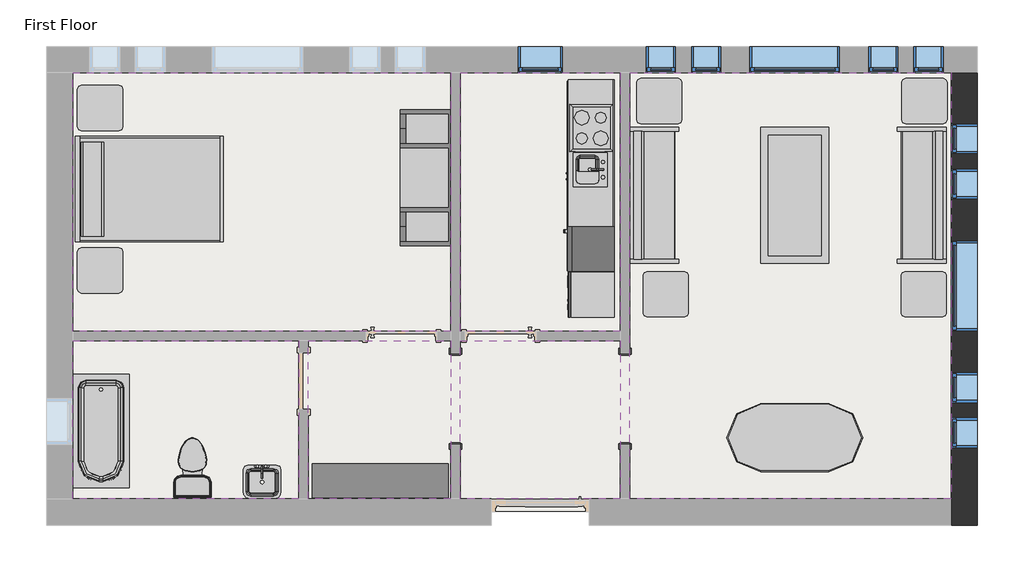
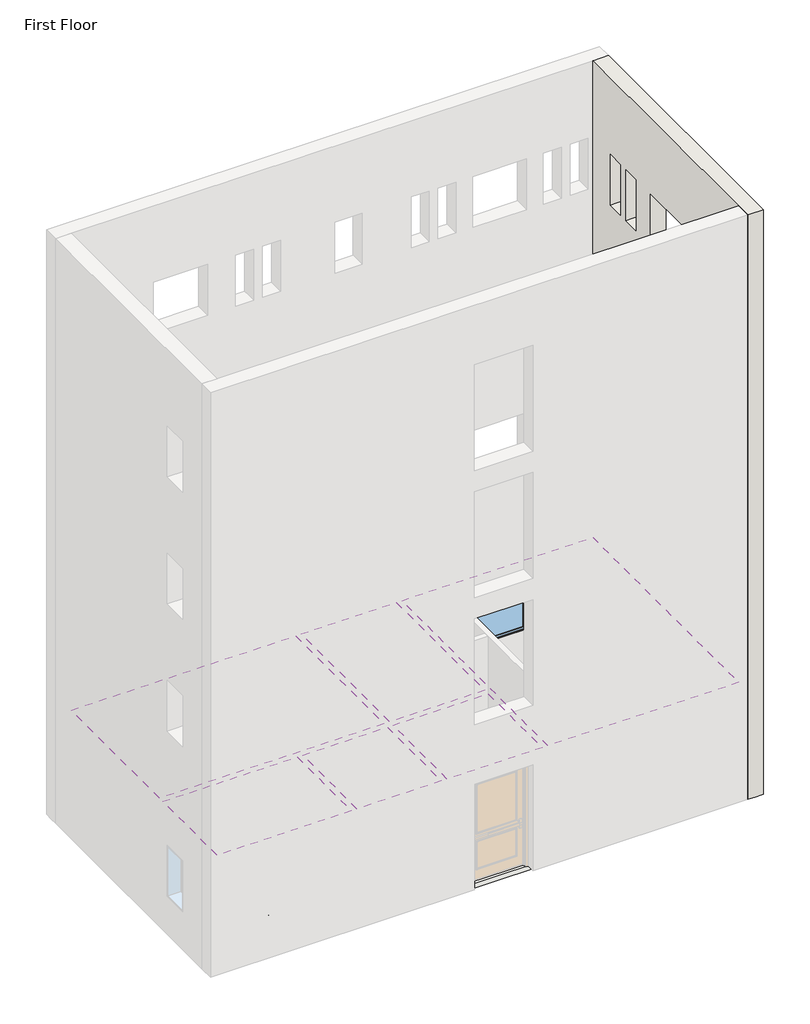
# One storey, part 2 of 2: 14 furniture elements, 11 windows, 6 coverings, 6 proxies, 4 flow terminals, 1 slab, 1 wall.
"""IFC4 building model written with IfcOpenShell, lengths in millimetres."""

from ifc_helpers import new_model, si_unit, frame, origin, place, context, project, spatial, polyline, outline, extrude, faceted_brep, transform, mapped, element, save
from components import proxy_a6faaae8, proxy_45b28599, proxy_2d72b8be, proxy_f44482cc, proxy_d58c73d0, proxy_c523a7b7, flow_terminal_871c2e40, flow_terminal_62a433f7, toilet_domestic_3d_toilet_domestic_3d_f7549cf7, toilet_domestic_3d_toilet_domestic_3d_183bbd19, tub_rectangular_3d_tub_rectangular_3d_c56944d8, furniture_096e7f55, furniture_b11095bc, furniture_7c473f12, furniture_cf0b6580, furniture_a4ffab56, furniture_4aa42607, furniture_cd93a443, furniture_2c34a4f9, furniture_3a588284, furniture_1befe2a2, window_da97879f, window_d61ef850, window_60baf983, window_6eb97611

model = new_model("IFC4")

# Units and contexts
model_context = context("Model", 3, world=origin())
ifc_project = project(units=[si_unit("LENGTHUNIT", "METRE", prefix="MILLI")], contexts=[model_context])

# Site, building, storey
site = spatial("IfcSite", under=ifc_project)
building = spatial("IfcBuilding", under=site)
storey = spatial("IfcBuildingStorey", under=building, Name="First Floor", Elevation=-914.4)

# Proxies
placement = place(None, origin())
proxy_shape = proxy_a6faaae8(model_context)
element("IfcBuildingElementProxy", 1, Name="Cook Top-4 Unit2 : 22\" x 20\"", ObjectType="Cook Top-4 Unit2 : 22\" x 20\"", at=placement, inside=storey, context=model_context, shape_type="MappedRepresentation", body=[
    mapped(proxy_shape, transform((-9031.7273953, 6866.0370415, -912.7), x_axis=(0.0, 1.0, 0.0), y_axis=(-1.0, 0.0, 0.0), z_axis=(0.0, 0.0, 1.0))),
])
proxy_2_shape = proxy_45b28599(model_context)
element("IfcBuildingElementProxy", 2, Name="Dishwasher : 24\" x 24\" x 34\"", ObjectType="Dishwasher : 24\" x 24\" x 34\"", at=placement, inside=storey, context=model_context, shape_type="MappedRepresentation", body=[
    mapped(proxy_2_shape, transform((-9291.8269601, 5000.45451, -914.4), x_axis=(0.0, -1.0, 0.0), y_axis=(1.0, 0.0, 0.0), z_axis=(0.0, 0.0, 1.0))),
])
proxy_3_shape = proxy_2d72b8be(model_context)
element("IfcBuildingElementProxy", 3, Name="Kitchenette - Medium : 8'6\"", ObjectType="Kitchenette - Medium : 8'6\"", at=placement, inside=storey, context=model_context, shape_type="MappedRepresentation", body=[
    mapped(proxy_3_shape, transform((-8720.5773953, 6237.0747464, -914.4), x_axis=(0.0, -1.0, 0.0), y_axis=(1.0, 0.0, 0.0), z_axis=(0.0, 0.0, 1.0))),
])
proxy_4_shape = proxy_f44482cc(model_context)
element("IfcBuildingElementProxy", 4, Name="Passage Opening-Cased : 48\" x 84\"", ObjectType="Passage Opening-Cased : 48\" x 84\"", at=placement, inside=storey, context=model_context, shape_type="MappedRepresentation", body=[
    mapped(proxy_4_shape, transform((-8577.1844712, 3224.0452741, -914.4), x_axis=(0.0, 1.0, 0.0), y_axis=(-1.0, 0.0, 0.0), z_axis=(0.0, 0.0, 1.0))),
])
proxy_5_shape = proxy_d58c73d0(model_context)
element("IfcBuildingElementProxy", 5, Name="Passage Opening-Cased : 48\" x 84\"", ObjectType="Passage Opening-Cased : 48\" x 84\"", at=placement, inside=storey, context=model_context, shape_type="MappedRepresentation", body=[
    mapped(proxy_5_shape, transform((-10863.1844712, 3224.0452741, -914.4), x_axis=(0.0, 1.0, 0.0), y_axis=(-1.0, 0.0, 0.0), z_axis=(0.0, 0.0, 1.0))),
])
proxy_6_shape = proxy_c523a7b7(model_context)
element("IfcBuildingElementProxy", 6, Name="Refrigerator : 24\" x 25\" LH", ObjectType="Refrigerator : 24\" x 25\" LH", at=placement, inside=storey, context=model_context, shape_type="MappedRepresentation", body=[
    mapped(proxy_6_shape, transform((-9020.2263668, 5234.0870415, -914.4), x_axis=(0.0, -1.0, 0.0), y_axis=(1.0, 0.0, 0.0), z_axis=(0.0, 0.0, 1.0))),
])

# Coverings
element("IfcCovering", 7, ObjectType="GWB on Mtl. Stud", at=placement, inside=storey, context=model_context, shape_type="SweptSolid", body=[
    extrude(outline(polyline([(-16020.9719712, 7611.6441174), (-10926.6844712, 7611.6441174), (-10926.6844712, 4128.6691174), (-16020.9719712, 4128.6691174), (-16020.9719712, 7611.6441174)])), frame((0.0, 0.0, 1676.4), z_axis=(0.0, 0.0, 1.0), x_axis=(1.0, 0.0, 0.0)), (0.0, 0.0, 1.0), 107.95),
])
element("IfcCovering", 8, ObjectType="GWB on Mtl. Stud", at=placement, inside=storey, context=model_context, shape_type="SweptSolid", body=[
    extrude(outline(polyline([(-10799.6844712, 4128.6691174), (-10799.6844712, 7611.6441174), (-8640.6844712, 7611.6441174), (-8640.6844712, 4128.6691174), (-10799.6844712, 4128.6691174)])), frame((0.0, 0.0, 1676.4), z_axis=(0.0, 0.0, 1.0), x_axis=(1.0, 0.0, 0.0)), (0.0, 0.0, 1.0), 107.95),
])
element("IfcCovering", 9, ObjectType="GWB on Mtl. Stud", at=placement, inside=storey, context=model_context, shape_type="SweptSolid", body=[
    extrude(outline(polyline([(-8513.6844712, 1868.0691174), (-8513.6844712, 7611.6441174), (-4181.3969712, 7611.6441174), (-4181.3969712, 1868.0691174), (-8513.6844712, 1868.0691174)])), frame((0.0, 0.0, 1676.4), z_axis=(0.0, 0.0, 1.0), x_axis=(1.0, 0.0, 0.0)), (0.0, 0.0, 1.0), 107.95),
])
element("IfcCovering", 10, ObjectType="GWB on Mtl. Stud", at=placement, inside=storey, context=model_context, shape_type="SweptSolid", body=[
    extrude(outline(polyline([(-8640.6844712, 1868.0691174), (-10799.6844712, 1868.0691174), (-10799.6844712, 4001.6691174), (-8640.6844712, 4001.6691174), (-8640.6844712, 1868.0691174)])), frame((0.0, 0.0, 1676.4), z_axis=(0.0, 0.0, 1.0), x_axis=(1.0, 0.0, 0.0)), (0.0, 0.0, 1.0), 107.95),
])
element("IfcCovering", 11, ObjectType="GWB on Mtl. Stud", at=placement, inside=storey, context=model_context, shape_type="SweptSolid", body=[
    extrude(outline(polyline([(-10926.6844712, 1868.0691174), (-12845.9719712, 1868.0691174), (-12845.9719712, 4001.6691174), (-10926.6844712, 4001.6691174), (-10926.6844712, 1868.0691174)])), frame((0.0, 0.0, 1676.4), z_axis=(0.0, 0.0, 1.0), x_axis=(1.0, 0.0, 0.0)), (0.0, 0.0, 1.0), 107.95),
])
element("IfcCovering", 12, ObjectType="GWB on Mtl. Stud", at=placement, inside=storey, context=model_context, shape_type="SweptSolid", body=[
    extrude(outline(polyline([(-12972.9719712, 4001.6691174), (-12972.9719712, 1868.0691174), (-16020.9719712, 1868.0691174), (-16020.9719712, 4001.6691174), (-12972.9719712, 4001.6691174)])), frame((0.0, 0.0, 1676.4), z_axis=(0.0, 0.0, 1.0), x_axis=(1.0, 0.0, 0.0)), (0.0, 0.0, 1.0), 107.95),
])

# Flow terminals
flow_terminal_shape = flow_terminal_871c2e40(model_context)
element("IfcFlowTerminal", 13, ObjectType="Sink Kitchen-Island : 18\" x 18\"", at=placement, inside=storey, context=model_context, shape_type="MappedRepresentation", body=[
    mapped(flow_terminal_shape, transform((-9048.7582992, 6321.1277059, -927.1), x_axis=(0.0, -1.0, 0.0), y_axis=(1.0, 0.0, 0.0), z_axis=(0.0, 0.0, 1.0))),
])
flow_terminal_2_shape = flow_terminal_62a433f7(model_context)
element("IfcFlowTerminal", 14, ObjectType="Sink Vanity-Square : 20\" x 18\"", at=placement, inside=storey, context=model_context, shape_type="MappedRepresentation", body=[
    mapped(flow_terminal_2_shape, transform((-13483.9612118, 2145.1237163, -914.4), x_axis=(1.0, 0.0, 0.0), y_axis=(0.0, 1.0, 0.0), z_axis=(0.0, 0.0, 1.0))),
])
toilet_domestic_3d_toilet_domestic_3d_shape = toilet_domestic_3d_toilet_domestic_3d_f7549cf7(model_context)
toilet_domestic_3d_toilet_domestic_3d_2_shape = toilet_domestic_3d_toilet_domestic_3d_183bbd19(model_context)
element("IfcFlowTerminal", 15, ObjectType="Toilet-Domestic-3D : Toilet-Domestic-3D", at=placement, inside=storey, context=model_context, shape_type="MappedRepresentation", body=[
    mapped(toilet_domestic_3d_toilet_domestic_3d_shape, transform((-14408.0719712, 2388.7691174, -914.4), x_axis=(-1.0, 0.0, 0.0), y_axis=(0.0, -1.0, 0.0), z_axis=(0.0, 0.0, 1.0))),
    mapped(toilet_domestic_3d_toilet_domestic_3d_2_shape, transform((-14408.0719712, 2388.7691174, -914.4), x_axis=(-1.0, 0.0, 0.0), y_axis=(0.0, -1.0, 0.0), z_axis=(0.0, 0.0, 1.0))),
])
tub_rectangular_3d_tub_rectangular_3d_shape = tub_rectangular_3d_tub_rectangular_3d_c56944d8(model_context)
element("IfcFlowTerminal", 16, ObjectType="Tub-Rectangular-3D : Tub-Rectangular-3D", at=placement, inside=storey, context=model_context, shape_type="MappedRepresentation", body=[
    mapped(tub_rectangular_3d_tub_rectangular_3d_shape, transform((-16197.1844712, 2435.4536487, -914.4), x_axis=(0.0, -1.0, 0.0), y_axis=(1.0, 0.0, 0.0), z_axis=(0.0, 0.0, 1.0))),
])

# Furniture
furniture_shape = furniture_096e7f55(model_context)
element("IfcFurniture", 17, ObjectType="Bed-Shaker : Double 56\" x 78\"", at=placement, inside=storey, context=model_context, shape_type="MappedRepresentation", body=[
    mapped(furniture_shape, transform((-15975.8112951, 6061.1004868, -914.4), x_axis=(0.0, 1.0, 0.0), y_axis=(-1.0, 0.0, 0.0), z_axis=(0.0, 0.0, 1.0))),
])
furniture_2_shape = furniture_b11095bc(model_context)
element("IfcFurniture", 18, ObjectType="Counter Top w Sink Hole : 24\" Depth", at=placement, inside=storey, context=model_context, shape_type="MappedRepresentation", body=[
    mapped(furniture_2_shape, transform((-8720.5773953, 6313.2747464, -927.1), x_axis=(0.0, -1.0, 0.0), y_axis=(1.0, 0.0, 0.0), z_axis=(0.0, 0.0, 1.0))),
])
furniture_3_shape = furniture_7c473f12(model_context)
element("IfcFurniture", 19, ObjectType="Dresser : 72\" x 60\" x 18\"", at=placement, inside=storey, context=model_context, shape_type="MappedRepresentation", body=[
    mapped(furniture_3_shape, transform((-11608.4037114, 2478.8820715, -914.4), x_axis=(1.0, 0.0, 0.0), y_axis=(0.0, 1.0, 0.0), z_axis=(0.0, 0.0, 1.0))),
])
furniture_4_shape = furniture_cf0b6580(model_context)
element("IfcFurniture", 20, ObjectType="Entertainment Center : 72\" x 72\" x 24\"", at=placement, inside=storey, context=model_context, shape_type="MappedRepresentation", body=[
    mapped(furniture_4_shape, transform((-10825.0844712, 6196.8069525, -914.4), x_axis=(0.0, -1.0, 0.0), y_axis=(1.0, 0.0, 0.0), z_axis=(0.0, 0.0, 1.0))),
])
furniture_5_shape = furniture_a4ffab56(model_context)
element("IfcFurniture", 21, ObjectType="Sofa : 72\"", at=placement, inside=storey, context=model_context, shape_type="MappedRepresentation", body=[
    mapped(furniture_5_shape, transform((-8037.3303728, 5888.6861256, -914.4), x_axis=(0.0, 1.0, 0.0), y_axis=(-1.0, 0.0, 0.0), z_axis=(0.0, 0.0, 1.0))),
])
furniture_6_shape = furniture_4aa42607(model_context)
element("IfcFurniture", 22, ObjectType="Sofa : 72\"", at=placement, inside=storey, context=model_context, shape_type="MappedRepresentation", body=[
    mapped(furniture_6_shape, transform((-4722.8385696, 5888.6861256, -914.4), x_axis=(0.0, 1.0, 0.0), y_axis=(-1.0, 0.0, 0.0), z_axis=(0.0, 0.0, 1.0))),
])
furniture_7_shape = furniture_cd93a443(model_context)
element("IfcFurniture", 23, ObjectType="Table-Coffee : 36\" x 72\" x 18\"", at=placement, inside=storey, context=model_context, shape_type="MappedRepresentation", body=[
    mapped(furniture_7_shape, transform((-6386.395549, 5977.3223841, -914.4), x_axis=(0.0, -1.0, 0.0), y_axis=(1.0, 0.0, 0.0), z_axis=(0.0, 0.0, 1.0))),
])
furniture_8_shape = furniture_2c34a4f9(model_context)
element("IfcFurniture", 24, ObjectType="Table-Dining Oval : 36\" x 72\"", at=placement, inside=storey, context=model_context, shape_type="MappedRepresentation", body=[
    mapped(furniture_8_shape, transform((-5889.3647991, 3051.6674781, -914.4), x_axis=(1.0, 0.0, 0.0), y_axis=(0.0, 1.0, 0.0), z_axis=(0.0, 0.0, 1.0))),
])
furniture_9_shape = furniture_3a588284(model_context)
element("IfcFurniture", 25, ObjectType="Table-End : 24\" x 24\"", at=placement, inside=storey, context=model_context, shape_type="MappedRepresentation", body=[
    mapped(furniture_9_shape, transform((-8424.0054177, 7076.6566174, -914.4), x_axis=(1.0, 0.0, 0.0), y_axis=(0.0, 1.0, 0.0), z_axis=(0.0, 0.0, 1.0))),
])
element("IfcFurniture", 26, ObjectType="Table-End : 24\" x 24\"", at=placement, inside=storey, context=model_context, shape_type="MappedRepresentation", body=[
    mapped(furniture_9_shape, transform((-8338.5433691, 4473.0178252, -914.4), x_axis=(1.0, 0.0, 0.0), y_axis=(0.0, 1.0, 0.0), z_axis=(0.0, 0.0, 1.0))),
])
element("IfcFurniture", 27, ObjectType="Table-End : 24\" x 24\"", at=placement, inside=storey, context=model_context, shape_type="MappedRepresentation", body=[
    mapped(furniture_9_shape, transform((-15961.2056015, 4795.4191174, -914.4), x_axis=(1.0, 0.0, 0.0), y_axis=(0.0, 1.0, 0.0), z_axis=(0.0, 0.0, 1.0))),
])
furniture_10_shape = furniture_1befe2a2(model_context)
element("IfcFurniture", 28, ObjectType="Table-End : 24\" x 24\"", at=placement, inside=storey, context=model_context, shape_type="MappedRepresentation", body=[
    mapped(furniture_10_shape, transform((-4234.5635246, 7076.6566174, -914.4), x_axis=(-1.0, 0.0, 0.0), y_axis=(0.0, -1.0, 0.0), z_axis=(0.0, 0.0, 1.0))),
])
element("IfcFurniture", 29, ObjectType="Table-End : 24\" x 24\"", at=placement, inside=storey, context=model_context, shape_type="MappedRepresentation", body=[
    mapped(furniture_10_shape, transform((-4243.8255733, 4473.0178252, -914.4), x_axis=(-1.0, 0.0, 0.0), y_axis=(0.0, -1.0, 0.0), z_axis=(0.0, 0.0, 1.0))),
])
element("IfcFurniture", 30, ObjectType="Table-End : 24\" x 24\"", at=placement, inside=storey, context=model_context, shape_type="MappedRepresentation", body=[
    mapped(furniture_10_shape, transform((-15961.2056015, 7288.6818561, -914.4), x_axis=(1.0, 0.0, 0.0), y_axis=(0.0, 1.0, 0.0), z_axis=(0.0, 0.0, 1.0))),
])

# Slab
element("IfcSlab", 31, ObjectType="LW Concrete on Metal Deck", at=placement, inside=storey, context=model_context, shape_type="SweptSolid", body=[
    extrude(outline(polyline([(-4016.2969712, 7776.7441174), (-4016.2969712, 1702.9691174), (-16186.0719712, 1702.9691174), (-16186.0719712, 7776.7441174), (-4016.2969712, 7776.7441174)])), frame((0.0, 0.0, -1019.175), z_axis=(0.0, 0.0, 1.0), x_axis=(1.0, 0.0, 0.0)), (0.0, 0.0, 1.0), 104.775),
])

# Wall
element("IfcWall", 32, ObjectType="Exterior - Brick on Mtl. Stud", at=placement, inside=storey, context=model_context, shape_type="Brep", body=[
    faceted_brep([(-4181.3969712, 7611.6441174, -914.4), (-4181.3969712, 1868.0691174, -914.4), (-4181.3969712, 1702.9691174, -914.4), (-4181.3969712, 1515.6441174, -914.4), (-4181.3969712, 1515.6441174, 13106.4), (-4181.3969712, 1868.0691174, 13106.4), (-4181.3969712, 7611.6441174, 13106.4), (-4181.3969712, 5349.4566174, 1219.2), (-4181.3969712, 4130.2566174, 1219.2), (-4181.3969712, 4130.2566174, 0.0), (-4181.3969712, 5349.4566174, 0.0), (-4181.3969712, 6314.6566174, 1219.2), (-4181.3969712, 5908.2566174, 1219.2), (-4181.3969712, 5908.2566174, 0.0), (-4181.3969712, 6314.6566174, 0.0), (-4181.3969712, 6924.2566174, 1219.2), (-4181.3969712, 6517.8566174, 1219.2), (-4181.3969712, 6517.8566174, 0.0), (-4181.3969712, 6924.2566174, 0.0), (-4181.3969712, 3165.0566174, 1219.2), (-4181.3969712, 3165.0566174, 0.0), (-4181.3969712, 3571.4566174, 0.0), (-4181.3969712, 3571.4566174, 1219.2), (-4181.3969712, 2555.4566174, 1219.2), (-4181.3969712, 2555.4566174, 0.0), (-4181.3969712, 2961.8566174, 0.0), (-4181.3969712, 2961.8566174, 1219.2), (-4181.3969712, 3165.0566174, 11277.6), (-4181.3969712, 3165.0566174, 10058.4), (-4181.3969712, 3571.4566174, 10058.4), (-4181.3969712, 3571.4566174, 11277.6), (-4181.3969712, 2555.4566174, 11277.6), (-4181.3969712, 2555.4566174, 10058.4), (-4181.3969712, 2961.8566174, 10058.4), (-4181.3969712, 2961.8566174, 11277.6), (-4181.3969712, 6314.6566174, 11277.6), (-4181.3969712, 5908.2566174, 11277.6), (-4181.3969712, 5908.2566174, 10058.4), (-4181.3969712, 6314.6566174, 10058.4), (-4181.3969712, 6924.2566174, 11277.6), (-4181.3969712, 6517.8566174, 11277.6), (-4181.3969712, 6517.8566174, 10058.4), (-4181.3969712, 6924.2566174, 10058.4), (-4181.3969712, 5349.4566174, 11277.6), (-4181.3969712, 4130.2566174, 11277.6), (-4181.3969712, 4130.2566174, 10058.4), (-4181.3969712, 5349.4566174, 10058.4), (-4181.3969712, 3165.0566174, 5181.6), (-4181.3969712, 3165.0566174, 3962.4), (-4181.3969712, 3571.4566174, 3962.4), (-4181.3969712, 3571.4566174, 5181.6), (-4181.3969712, 2555.4566174, 5181.6), (-4181.3969712, 2555.4566174, 3962.4), (-4181.3969712, 2961.8566174, 3962.4), (-4181.3969712, 2961.8566174, 5181.6), (-4181.3969712, 6314.6566174, 5181.6), (-4181.3969712, 5908.2566174, 5181.6), (-4181.3969712, 5908.2566174, 3962.4), (-4181.3969712, 6314.6566174, 3962.4), (-4181.3969712, 6924.2566174, 5181.6), (-4181.3969712, 6517.8566174, 5181.6), (-4181.3969712, 6517.8566174, 3962.4), (-4181.3969712, 6924.2566174, 3962.4), (-4181.3969712, 5349.4566174, 5181.6), (-4181.3969712, 4130.2566174, 5181.6), (-4181.3969712, 4130.2566174, 3962.4), (-4181.3969712, 5349.4566174, 3962.4), (-4181.3969712, 3165.0566174, 8229.6), (-4181.3969712, 3165.0566174, 7010.4), (-4181.3969712, 3571.4566174, 7010.4), (-4181.3969712, 3571.4566174, 8229.6), (-4181.3969712, 2555.4566174, 8229.6), (-4181.3969712, 2555.4566174, 7010.4), (-4181.3969712, 2961.8566174, 7010.4), (-4181.3969712, 2961.8566174, 8229.6), (-4181.3969712, 6314.6566174, 8229.6), (-4181.3969712, 5908.2566174, 8229.6), (-4181.3969712, 5908.2566174, 7010.4), (-4181.3969712, 6314.6566174, 7010.4), (-4181.3969712, 6924.2566174, 8229.6), (-4181.3969712, 6517.8566174, 8229.6), (-4181.3969712, 6517.8566174, 7010.4), (-4181.3969712, 6924.2566174, 7010.4), (-4181.3969712, 5349.4566174, 8229.6), (-4181.3969712, 4130.2566174, 8229.6), (-4181.3969712, 4130.2566174, 7010.4), (-4181.3969712, 5349.4566174, 7010.4), (-3828.9719712, 7611.6441174, -914.4), (-3828.9719712, 7611.6441174, 13106.4), (-3828.9719712, 1515.6441174, 13106.4), (-3828.9719712, 1515.6441174, -914.4), (-3828.9719712, 1702.9691174, -914.4), (-3828.9719712, 5349.4566174, 1219.2), (-3828.9719712, 5349.4566174, 0.0), (-3828.9719712, 4130.2566174, 0.0), (-3828.9719712, 4130.2566174, 1219.2), (-3828.9719712, 6314.6566174, 1219.2), (-3828.9719712, 6314.6566174, 0.0), (-3828.9719712, 5908.2566174, 0.0), (-3828.9719712, 5908.2566174, 1219.2), (-3828.9719712, 6924.2566174, 1219.2), (-3828.9719712, 6924.2566174, 0.0), (-3828.9719712, 6517.8566174, 0.0), (-3828.9719712, 6517.8566174, 1219.2), (-3828.9719712, 3165.0566174, 1219.2), (-3828.9719712, 3571.4566174, 1219.2), (-3828.9719712, 3571.4566174, 0.0), (-3828.9719712, 3165.0566174, 0.0), (-3828.9719712, 2555.4566174, 1219.2), (-3828.9719712, 2961.8566174, 1219.2), (-3828.9719712, 2961.8566174, 0.0), (-3828.9719712, 2555.4566174, 0.0), (-3828.9719712, 3165.0566174, 11277.6), (-3828.9719712, 3571.4566174, 11277.6), (-3828.9719712, 3571.4566174, 10058.4), (-3828.9719712, 3165.0566174, 10058.4), (-3828.9719712, 2555.4566174, 11277.6), (-3828.9719712, 2961.8566174, 11277.6), (-3828.9719712, 2961.8566174, 10058.4), (-3828.9719712, 2555.4566174, 10058.4), (-3828.9719712, 6314.6566174, 11277.6), (-3828.9719712, 6314.6566174, 10058.4), (-3828.9719712, 5908.2566174, 10058.4), (-3828.9719712, 5908.2566174, 11277.6), (-3828.9719712, 6924.2566174, 11277.6), (-3828.9719712, 6924.2566174, 10058.4), (-3828.9719712, 6517.8566174, 10058.4), (-3828.9719712, 6517.8566174, 11277.6), (-3828.9719712, 5349.4566174, 11277.6), (-3828.9719712, 5349.4566174, 10058.4), (-3828.9719712, 4130.2566174, 10058.4), (-3828.9719712, 4130.2566174, 11277.6), (-3828.9719712, 3165.0566174, 5181.6), (-3828.9719712, 3571.4566174, 5181.6), (-3828.9719712, 3571.4566174, 3962.4), (-3828.9719712, 3165.0566174, 3962.4), (-3828.9719712, 2555.4566174, 5181.6), (-3828.9719712, 2961.8566174, 5181.6), (-3828.9719712, 2961.8566174, 3962.4), (-3828.9719712, 2555.4566174, 3962.4), (-3828.9719712, 6314.6566174, 5181.6), (-3828.9719712, 6314.6566174, 3962.4), (-3828.9719712, 5908.2566174, 3962.4), (-3828.9719712, 5908.2566174, 5181.6), (-3828.9719712, 6924.2566174, 5181.6), (-3828.9719712, 6924.2566174, 3962.4), (-3828.9719712, 6517.8566174, 3962.4), (-3828.9719712, 6517.8566174, 5181.6), (-3828.9719712, 5349.4566174, 5181.6), (-3828.9719712, 5349.4566174, 3962.4), (-3828.9719712, 4130.2566174, 3962.4), (-3828.9719712, 4130.2566174, 5181.6), (-3828.9719712, 3165.0566174, 8229.6), (-3828.9719712, 3571.4566174, 8229.6), (-3828.9719712, 3571.4566174, 7010.4), (-3828.9719712, 3165.0566174, 7010.4), (-3828.9719712, 2555.4566174, 8229.6), (-3828.9719712, 2961.8566174, 8229.6), (-3828.9719712, 2961.8566174, 7010.4), (-3828.9719712, 2555.4566174, 7010.4), (-3828.9719712, 6314.6566174, 8229.6), (-3828.9719712, 6314.6566174, 7010.4), (-3828.9719712, 5908.2566174, 7010.4), (-3828.9719712, 5908.2566174, 8229.6), (-3828.9719712, 6924.2566174, 8229.6), (-3828.9719712, 6924.2566174, 7010.4), (-3828.9719712, 6517.8566174, 7010.4), (-3828.9719712, 6517.8566174, 8229.6), (-3828.9719712, 5349.4566174, 8229.6), (-3828.9719712, 5349.4566174, 7010.4), (-3828.9719712, 4130.2566174, 7010.4), (-3828.9719712, 4130.2566174, 8229.6), (-4016.2969712, 7611.6441174, -914.4), (-4016.2969712, 1515.6441174, -914.4), (-4016.2969712, 1702.9691174, -914.4)], [[[0, 1, 2, 3, 4, 5, 6], [7, 8, 9, 10], [11, 12, 13, 14], [15, 16, 17, 18], [19, 20, 21, 22], [23, 24, 25, 26], [27, 28, 29, 30], [31, 32, 33, 34], [35, 36, 37, 38], [39, 40, 41, 42], [43, 44, 45, 46], [47, 48, 49, 50], [51, 52, 53, 54], [55, 56, 57, 58], [59, 60, 61, 62], [63, 64, 65, 66], [67, 68, 69, 70], [71, 72, 73, 74], [75, 76, 77, 78], [79, 80, 81, 82], [83, 84, 85, 86]], [[87, 88, 89, 90, 91], [92, 93, 94, 95], [96, 97, 98, 99], [100, 101, 102, 103], [104, 105, 106, 107], [108, 109, 110, 111], [112, 113, 114, 115], [116, 117, 118, 119], [120, 121, 122, 123], [124, 125, 126, 127], [128, 129, 130, 131], [132, 133, 134, 135], [136, 137, 138, 139], [140, 141, 142, 143], [144, 145, 146, 147], [148, 149, 150, 151], [152, 153, 154, 155], [156, 157, 158, 159], [160, 161, 162, 163], [164, 165, 166, 167], [168, 169, 170, 171]], [[6, 5, 4, 89, 88]], [[0, 6, 88, 87, 172]], [[4, 3, 173, 90, 89]], [[93, 92, 7, 10]], [[94, 93, 10, 9]], [[95, 94, 9, 8]], [[92, 95, 8, 7]], [[97, 96, 11, 14]], [[98, 97, 14, 13]], [[99, 98, 13, 12]], [[96, 99, 12, 11]], [[101, 100, 15, 18]], [[102, 101, 18, 17]], [[103, 102, 17, 16]], [[100, 103, 16, 15]], [[20, 19, 104, 107]], [[21, 20, 107, 106]], [[22, 21, 106, 105]], [[19, 22, 105, 104]], [[24, 23, 108, 111]], [[25, 24, 111, 110]], [[26, 25, 110, 109]], [[23, 26, 109, 108]], [[172, 87, 91, 174]], [[3, 2, 174, 173]], [[174, 91, 90, 173]], [[2, 1, 0, 172, 174]], [[28, 27, 112, 115]], [[29, 28, 115, 114]], [[30, 29, 114, 113]], [[27, 30, 113, 112]], [[32, 31, 116, 119]], [[33, 32, 119, 118]], [[34, 33, 118, 117]], [[31, 34, 117, 116]], [[121, 120, 35, 38]], [[122, 121, 38, 37]], [[123, 122, 37, 36]], [[120, 123, 36, 35]], [[125, 124, 39, 42]], [[126, 125, 42, 41]], [[127, 126, 41, 40]], [[124, 127, 40, 39]], [[129, 128, 43, 46]], [[130, 129, 46, 45]], [[131, 130, 45, 44]], [[128, 131, 44, 43]], [[48, 47, 132, 135]], [[49, 48, 135, 134]], [[50, 49, 134, 133]], [[47, 50, 133, 132]], [[52, 51, 136, 139]], [[53, 52, 139, 138]], [[54, 53, 138, 137]], [[51, 54, 137, 136]], [[141, 140, 55, 58]], [[142, 141, 58, 57]], [[143, 142, 57, 56]], [[140, 143, 56, 55]], [[145, 144, 59, 62]], [[146, 145, 62, 61]], [[147, 146, 61, 60]], [[144, 147, 60, 59]], [[149, 148, 63, 66]], [[150, 149, 66, 65]], [[151, 150, 65, 64]], [[148, 151, 64, 63]], [[68, 67, 152, 155]], [[69, 68, 155, 154]], [[70, 69, 154, 153]], [[67, 70, 153, 152]], [[72, 71, 156, 159]], [[73, 72, 159, 158]], [[74, 73, 158, 157]], [[71, 74, 157, 156]], [[161, 160, 75, 78]], [[162, 161, 78, 77]], [[163, 162, 77, 76]], [[160, 163, 76, 75]], [[165, 164, 79, 82]], [[166, 165, 82, 81]], [[167, 166, 81, 80]], [[164, 167, 80, 79]], [[169, 168, 83, 86]], [[170, 169, 86, 85]], [[171, 170, 85, 84]], [[168, 171, 84, 83]]]),
])

# Windows
window_shape = window_da97879f(model_context)
element("IfcWindow", 33, ObjectType="Fixed : 16\" x 48\"", at=placement, inside=storey, context=model_context, shape_type="MappedRepresentation", body=[
    mapped(window_shape, transform((-8132.6844712, 7787.8566174, -914.4), x_axis=(-1.0, 0.0, 0.0), y_axis=(0.0, -1.0, 0.0), z_axis=(0.0, 0.0, 1.0))),
])
element("IfcWindow", 34, ObjectType="Fixed : 16\" x 48\"", at=placement, inside=storey, context=model_context, shape_type="MappedRepresentation", body=[
    mapped(window_shape, transform((-7523.0844712, 7787.8566174, -914.4), x_axis=(-1.0, 0.0, 0.0), y_axis=(0.0, -1.0, 0.0), z_axis=(0.0, 0.0, 1.0))),
])
element("IfcWindow", 35, ObjectType="Fixed : 16\" x 48\"", at=placement, inside=storey, context=model_context, shape_type="MappedRepresentation", body=[
    mapped(window_shape, transform((-4005.1844712, 6759.1566174, -914.4), x_axis=(0.0, 1.0, 0.0), y_axis=(-1.0, 0.0, 0.0), z_axis=(0.0, 0.0, 1.0))),
])
element("IfcWindow", 36, ObjectType="Fixed : 16\" x 48\"", at=placement, inside=storey, context=model_context, shape_type="MappedRepresentation", body=[
    mapped(window_shape, transform((-4005.1844712, 6149.5566174, -914.4), x_axis=(0.0, 1.0, 0.0), y_axis=(-1.0, 0.0, 0.0), z_axis=(0.0, 0.0, 1.0))),
])
window_2_shape = window_d61ef850(model_context)
element("IfcWindow", 37, ObjectType="Fixed : 16\" x 48\"", at=placement, inside=storey, context=model_context, shape_type="MappedRepresentation", body=[
    mapped(window_2_shape, transform((-4449.6844712, 7787.8566174, -914.4), x_axis=(1.0, 0.0, 0.0), y_axis=(0.0, 1.0, 0.0), z_axis=(0.0, 0.0, 1.0))),
])
element("IfcWindow", 38, ObjectType="Fixed : 16\" x 48\"", at=placement, inside=storey, context=model_context, shape_type="MappedRepresentation", body=[
    mapped(window_2_shape, transform((-5059.2844712, 7787.8566174, -914.4), x_axis=(1.0, 0.0, 0.0), y_axis=(0.0, 1.0, 0.0), z_axis=(0.0, 0.0, 1.0))),
])
element("IfcWindow", 39, ObjectType="Fixed : 16\" x 48\"", at=placement, inside=storey, context=model_context, shape_type="MappedRepresentation", body=[
    mapped(window_2_shape, transform((-4005.1844712, 2720.5566174, -914.4), x_axis=(0.0, -1.0, 0.0), y_axis=(1.0, 0.0, 0.0), z_axis=(0.0, 0.0, 1.0))),
])
element("IfcWindow", 40, ObjectType="Fixed : 16\" x 48\"", at=placement, inside=storey, context=model_context, shape_type="MappedRepresentation", body=[
    mapped(window_2_shape, transform((-4005.1844712, 3330.1566174, -914.4), x_axis=(0.0, -1.0, 0.0), y_axis=(1.0, 0.0, 0.0), z_axis=(0.0, 0.0, 1.0))),
])
window_3_shape = window_60baf983(model_context)
element("IfcWindow", 41, ObjectType="Fixed : 24\" x 48\"", at=placement, inside=storey, context=model_context, shape_type="MappedRepresentation", body=[
    mapped(window_3_shape, transform((-9758.2844712, 7787.8566174, -914.4), x_axis=(-1.0, 0.0, 0.0), y_axis=(0.0, -1.0, 0.0), z_axis=(0.0, 0.0, 1.0))),
])
window_4_shape = window_6eb97611(model_context)
element("IfcWindow", 42, ObjectType="Fixed : 48\" x 48\"", at=placement, inside=storey, context=model_context, shape_type="MappedRepresentation", body=[
    mapped(window_4_shape, transform((-6329.2844712, 7787.8566174, -914.4), x_axis=(-1.0, 0.0, 0.0), y_axis=(0.0, -1.0, 0.0), z_axis=(0.0, 0.0, 1.0))),
])
element("IfcWindow", 43, ObjectType="Fixed : 48\" x 48\"", at=placement, inside=storey, context=model_context, shape_type="MappedRepresentation", body=[
    mapped(window_4_shape, transform((-4005.1844712, 4777.9566174, -914.4), x_axis=(0.0, 1.0, 0.0), y_axis=(-1.0, 0.0, 0.0), z_axis=(0.0, 0.0, 1.0))),
])

save(model, "model.ifc")
